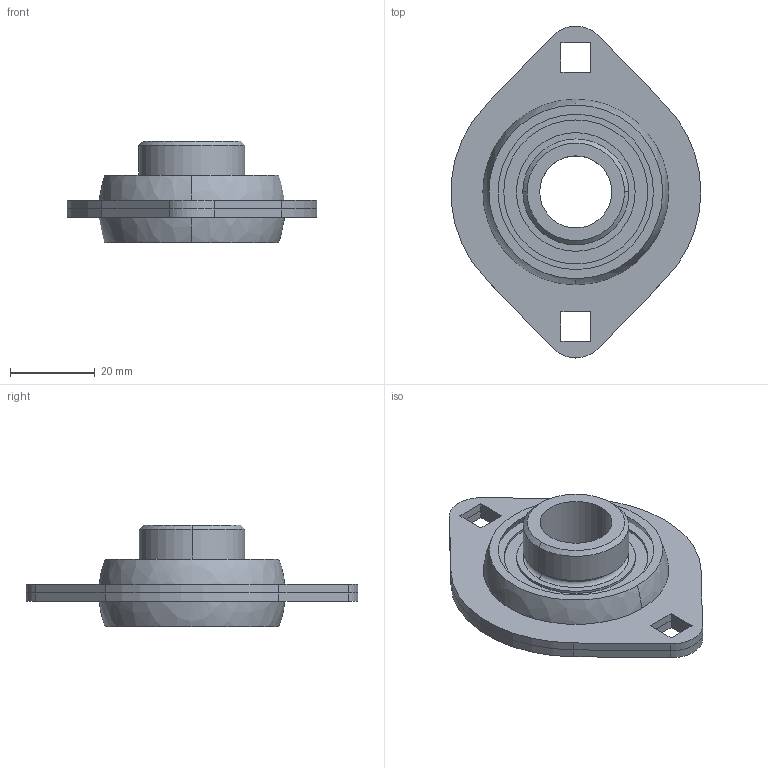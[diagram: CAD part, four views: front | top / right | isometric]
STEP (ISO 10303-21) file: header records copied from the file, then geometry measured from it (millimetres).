
FILE_DESCRIPTION (( 'STEP AP203' ), '1' );
FILE_NAME ('SBPFL 203.STEP', '2018-03-12T09:34:30', ( '' ), ( '' ), 'SwSTEP 2.0', 'SolidWorks 2016', '' );
FILE_SCHEMA (( 'CONFIG_CONTROL_DESIGN' ));
Length unit declared in the file: millimetre
Products named in the file (1): SBPFL 203
Bounding box: 58.89 x 78.34 x 24 mm (x, y, z)
Volume: 24240.5 mm3; surface area: 17332.7 mm2
Topology: 3 solids, 3 shells, 75 faces, 193 edges, 125 vertices
Faces by surface type: plane 37, cylinder 22, sphere 10, torus 4, cone 2
Entity records: 2311 total; most frequent: DIRECTION 416, CARTESIAN_POINT 374, ORIENTED_EDGE 360, EDGE_CURVE 180, AXIS2_PLACEMENT_3D 160, VERTEX_POINT 118, EDGE_LOOP 96, VECTOR 96
